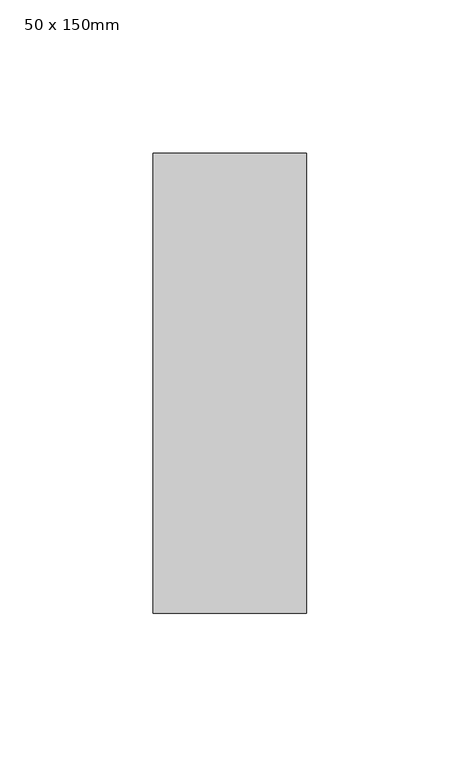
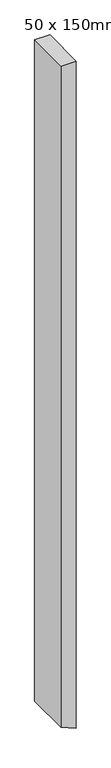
"""IFC4 building model written with IfcOpenShell, lengths in millimetres: member geometry, Prostokątny szpros : 50 x 150mm."""

from ifc_helpers import new_model, si_unit, frame, origin, place, context, project, spatial, polyline, outline, extrude, source, transform, mapped, element, save


def member_50_x_150mm_9eefeea5(model_context):
    return source(origin(), model_context, "Body", "SweptSolid", [
        extrude(outline(polyline([(0.0, 0.0), (0.0, -50.0), (-2300.7359314, -50.0), (-2321.4466096, 0.0), (0.0, 0.0)])), frame((0.0, -75.0, 0.0), z_axis=(0.0, 1.0, 0.0), x_axis=(0.0, 0.0, 1.0)), (0.0, 0.0, 1.0), 150.0),
    ])


if __name__ == "__main__":
    model = new_model("IFC4")
    model_context = context("Model", 3, world=origin())
    ifc_project = project(units=[si_unit("LENGTHUNIT", "METRE", prefix="MILLI")], contexts=[model_context])
    site = spatial("IfcSite", under=ifc_project)
    building = spatial("IfcBuilding", under=site)
    placement = place(None, origin())
    member_50_x_150mm_shape = member_50_x_150mm_9eefeea5(model_context)
    element("IfcMember", 1, ObjectType="Prostokątny szpros : 50 x 150mm", at=placement, inside=building, context=model_context, shape_type="MappedRepresentation", body=[
        mapped(member_50_x_150mm_shape, transform((0.0, 0.0, 0.0), x_axis=(1.0, 0.0, 0.0), y_axis=(0.0, 1.0, 0.0), z_axis=(0.0, 0.0, 1.0))),
    ])
    save(model, "model.ifc")
